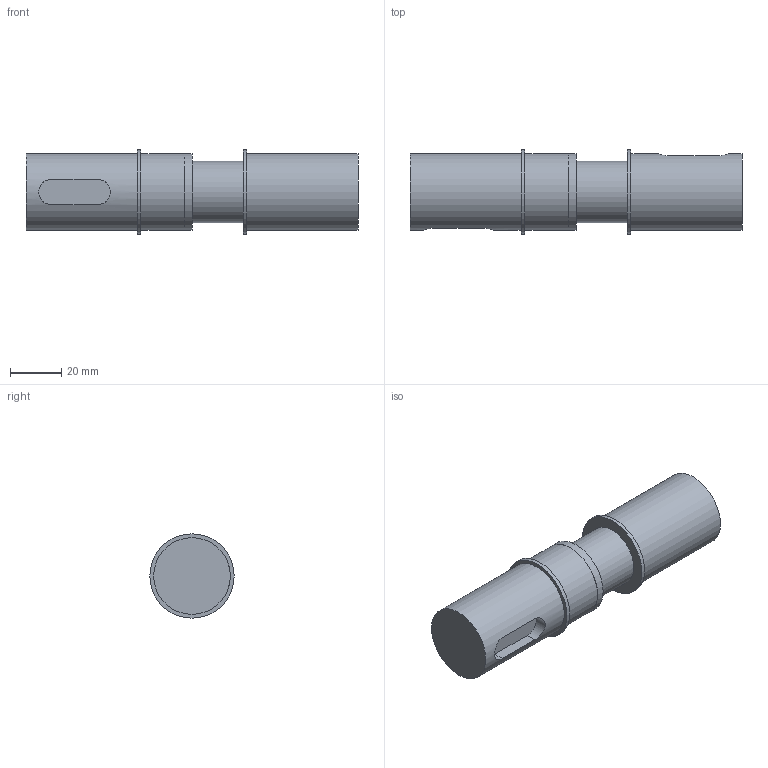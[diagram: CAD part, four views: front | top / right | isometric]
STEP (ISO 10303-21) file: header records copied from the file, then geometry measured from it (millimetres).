
FILE_DESCRIPTION(/* description */ (''),/* implementation_level */ '2;1');
FILE_NAME(/* name */ 'F:\Sensorik\Standard_Messflansche\High-Speed-Wellen_1-500Nm\Mit_Passfeder\Freigabe_HSMW_100Nm.stp',/* time_stamp */ '2019-10-30T15:26:15+01:00',/* author */ ('lander'),/* organization */ (''),/* preprocessor_version */ 'ST-DEVELOPER v16.5',/* originating_system */ 'Autodesk Inventor 2017',/* authorisation */ '');
FILE_SCHEMA (('AUTOMOTIVE_DESIGN { 1 0 10303 214 3 1 1 }'));
Length unit declared in the file: millimetre
Products named in the file (1): Freigabe_Messwelle
Bounding box: 130 x 33 x 33 mm (x, y, z)
Volume: 84717.3 mm3; surface area: 15000.4 mm2
Topology: 1 solids, 1 shells, 25 faces, 50 edges, 34 vertices
Faces by surface type: plane 14, cylinder 11
Full cylindrical faces by diameter (mm): 24 x1, 29.9 x1, 30 x3, 33 x2
Entity records: 712 total; most frequent: CARTESIAN_POINT 174, DIRECTION 104, ORIENTED_EDGE 84, AXIS2_PLACEMENT_3D 44, EDGE_CURVE 42, EDGE_LOOP 40, VERTEX_POINT 34, FACE_OUTER_BOUND 25
